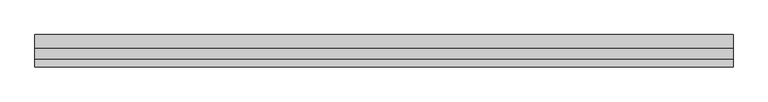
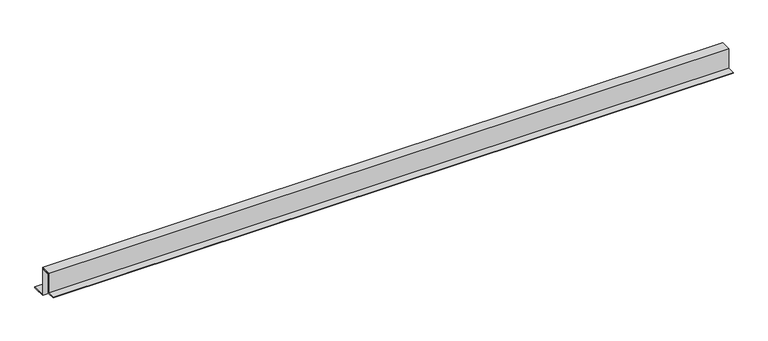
"""IFC4 building model written with IfcOpenShell, lengths in millimetres: proxy geometry, АК7_1 бок Обрамление оконного_дверного проема : АК7_1 бок Обрамление оконного_дверного проема."""

from ifc_helpers import new_model, si_unit, frame, origin, place, context, project, spatial, polyline, outline, extrude, source, transform, mapped, element, save


def generic_models_10c6125d(model_context):
    return source(origin(), model_context, "Body", "SweptSolid", [
        extrude(outline(polyline([(12.5, 25.0), (42.5, 25.0), (42.5, 22.0), (27.5, 22.0), (27.5, 23.0), (41.5, 23.0), (41.5, 24.0), (13.5, 24.0), (13.5, -36.9999552), (-10.5, -36.9999552), (-10.5, -35.9999552), (12.5, -35.9999552), (12.5, 25.0)])), frame((0.0, 0.0, 0.0), z_axis=(1.0, 0.0, 0.0), x_axis=(0.0, 1.0, 0.0)), (0.0, 0.0, 1.0), 1996.8683102),
        extrude(outline(polyline([(42.5, -60.0), (82.5, -60.0), (82.5, -63.0), (62.5, -63.0), (62.5, -62.0), (81.5, -62.0), (81.5, -61.0), (41.5, -61.0), (41.5, 21.0), (17.5, 21.0), (17.5, 22.0), (42.5, 22.0), (42.5, -60.0)])), frame((0.0, 0.0, 0.0), z_axis=(1.0, 0.0, 0.0), x_axis=(0.0, 1.0, 0.0)), (0.0, 0.0, 1.0), 1996.8683102),
    ])


if __name__ == "__main__":
    model = new_model("IFC4")
    model_context = context("Model", 3, world=origin())
    ifc_project = project(units=[si_unit("LENGTHUNIT", "METRE", prefix="MILLI")], contexts=[model_context])
    site = spatial("IfcSite", under=ifc_project)
    building = spatial("IfcBuilding", under=site)
    placement = place(None, origin())
    generic_models_shape = generic_models_10c6125d(model_context)
    element("IfcBuildingElementProxy", 1, Name="АК7_1 бок Обрамление оконного_дверного проема : АК7_1 бок Обрамление оконного_дверного проема", ObjectType="АК7_1 бок Обрамление оконного_дверного проема : АК7_1 бок Обрамление оконного_дверного проема", at=placement, inside=building, context=model_context, shape_type="MappedRepresentation", body=[
        mapped(generic_models_shape, transform((0.0, 0.0, 0.0), x_axis=(1.0, 0.0, 0.0), y_axis=(0.0, 1.0, 0.0), z_axis=(0.0, 0.0, 1.0))),
    ])
    save(model, "model.ifc")
